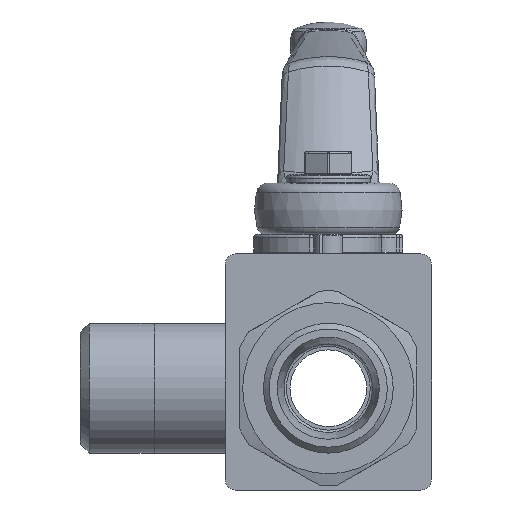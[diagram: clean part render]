
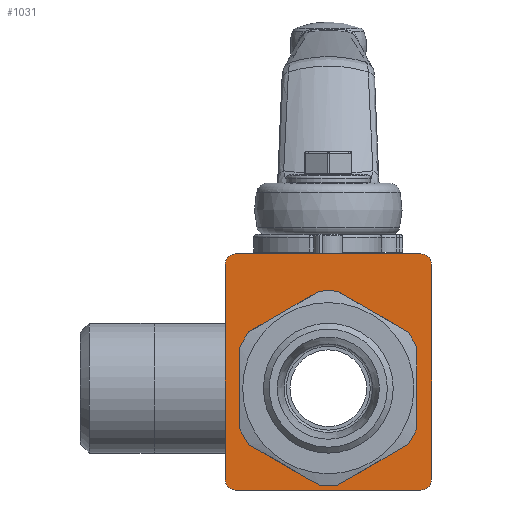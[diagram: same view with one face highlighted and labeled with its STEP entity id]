
A CAD part, front view. The second image highlights one B-rep face of the part: STEP entity #1031.
In plain terms, the highlighted planar face has unit normal (0, -1, 0).
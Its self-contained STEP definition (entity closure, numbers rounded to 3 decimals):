
#1031 = ADVANCED_FACE( '', ( #2126, #2127 ), #2128, .F. );
#2126 = FACE_BOUND( '', #3984, .T. );
#2127 = FACE_OUTER_BOUND( '', #3985, .T. );
#2128 = PLANE( '', #3986 );
#3984 = EDGE_LOOP( '', ( #6800 ) );
#3985 = EDGE_LOOP( '', ( #6801, #6802, #6803, #6804, #6805, #6806, #6807, #6808 ) );
#3986 = AXIS2_PLACEMENT_3D( '', #6809, #6810, #6811 );
#6800 = ORIENTED_EDGE( '', *, *, #8805, .F. );
#6801 = ORIENTED_EDGE( '', *, *, #8810, .T. );
#6802 = ORIENTED_EDGE( '', *, *, #8341, .T. );
#6803 = ORIENTED_EDGE( '', *, *, #8811, .T. );
#6804 = ORIENTED_EDGE( '', *, *, #8812, .T. );
#6805 = ORIENTED_EDGE( '', *, *, #8813, .T. );
#6806 = ORIENTED_EDGE( '', *, *, #8814, .T. );
#6807 = ORIENTED_EDGE( '', *, *, #8726, .T. );
#6808 = ORIENTED_EDGE( '', *, *, #8815, .T. );
#6809 = CARTESIAN_POINT( '', ( -17.5, -24.1, 22.75 ) );
#6810 = DIRECTION( '', ( 0., 1., 0. ) );
#6811 = DIRECTION( '', ( 0., 0., 1. ) );
#8341 = EDGE_CURVE( '', #9813, #9814, #9815, .F. );
#8726 = EDGE_CURVE( '', #10362, #10360, #10363, .T. );
#8805 = EDGE_CURVE( '', #10459, #10459, #10460, .T. );
#8810 = EDGE_CURVE( '', #10466, #9813, #10467, .T. );
#8811 = EDGE_CURVE( '', #9814, #10468, #10469, .T. );
#8812 = EDGE_CURVE( '', #10468, #10470, #10471, .F. );
#8813 = EDGE_CURVE( '', #10470, #10472, #10473, .T. );
#8814 = EDGE_CURVE( '', #10472, #10362, #10474, .F. );
#8815 = EDGE_CURVE( '', #10360, #10466, #10475, .F. );
#9813 = VERTEX_POINT( '', #12205 );
#9814 = VERTEX_POINT( '', #12206 );
#9815 = CIRCLE( '', #12207, 1.8 );
#10360 = VERTEX_POINT( '', #13310 );
#10362 = VERTEX_POINT( '', #13313 );
#10363 = LINE( '', #13314, #13315 );
#10459 = VERTEX_POINT( '', #13479 );
#10460 = CIRCLE( '', #13480, 15. );
#10466 = VERTEX_POINT( '', #13487 );
#10467 = LINE( '', #13488, #13489 );
#10468 = VERTEX_POINT( '', #13490 );
#10469 = LINE( '', #13491, #13492 );
#10470 = VERTEX_POINT( '', #13493 );
#10471 = CIRCLE( '', #13494, 1.8 );
#10472 = VERTEX_POINT( '', #13495 );
#10473 = LINE( '', #13496, #13497 );
#10474 = CIRCLE( '', #13498, 1.8 );
#10475 = CIRCLE( '', #13499, 1.8 );
#12205 = CARTESIAN_POINT( '', ( 15.7, -24.1, -17.25 ) );
#12206 = CARTESIAN_POINT( '', ( 17.5, -24.1, -15.45 ) );
#12207 = AXIS2_PLACEMENT_3D( '', #14624, #14625, #14626 );
#13310 = CARTESIAN_POINT( '', ( -17.5, -24.1, -15.45 ) );
#13313 = CARTESIAN_POINT( '', ( -17.5, -24.1, 20.95 ) );
#13314 = CARTESIAN_POINT( '', ( -17.5, -24.1, 22.75 ) );
#13315 = VECTOR( '', #15150, 1000. );
#13479 = CARTESIAN_POINT( '', ( 15., -24.1, 0. ) );
#13480 = AXIS2_PLACEMENT_3D( '', #15247, #15248, #15249 );
#13487 = CARTESIAN_POINT( '', ( -15.7, -24.1, -17.25 ) );
#13488 = CARTESIAN_POINT( '', ( -17.5, -24.1, -17.25 ) );
#13489 = VECTOR( '', #15254, 1000. );
#13490 = CARTESIAN_POINT( '', ( 17.5, -24.1, 20.95 ) );
#13491 = CARTESIAN_POINT( '', ( 17.5, -24.1, -17.25 ) );
#13492 = VECTOR( '', #15255, 1000. );
#13493 = CARTESIAN_POINT( '', ( 15.7, -24.1, 22.75 ) );
#13494 = AXIS2_PLACEMENT_3D( '', #15256, #15257, #15258 );
#13495 = CARTESIAN_POINT( '', ( -15.7, -24.1, 22.75 ) );
#13496 = CARTESIAN_POINT( '', ( 17.5, -24.1, 22.75 ) );
#13497 = VECTOR( '', #15259, 1000. );
#13498 = AXIS2_PLACEMENT_3D( '', #15260, #15261, #15262 );
#13499 = AXIS2_PLACEMENT_3D( '', #15263, #15264, #15265 );
#14624 = CARTESIAN_POINT( '', ( 15.7, -24.1, -15.45 ) );
#14625 = DIRECTION( '', ( 0., 1., 0. ) );
#14626 = DIRECTION( '', ( 0., 0., 1. ) );
#15150 = DIRECTION( '', ( 0., 0., -1. ) );
#15247 = CARTESIAN_POINT( '', ( 0., -24.1, 0. ) );
#15248 = DIRECTION( '', ( 0., -1., 0. ) );
#15249 = DIRECTION( '', ( 1., 0., 0. ) );
#15254 = DIRECTION( '', ( 1., 0., 0. ) );
#15255 = DIRECTION( '', ( 0., 0., 1. ) );
#15256 = CARTESIAN_POINT( '', ( 15.7, -24.1, 20.95 ) );
#15257 = DIRECTION( '', ( 0., 1., 0. ) );
#15258 = DIRECTION( '', ( 0., 0., 1. ) );
#15259 = DIRECTION( '', ( -1., 0., 0. ) );
#15260 = CARTESIAN_POINT( '', ( -15.7, -24.1, 20.95 ) );
#15261 = DIRECTION( '', ( 0., 1., 0. ) );
#15262 = DIRECTION( '', ( 0., 0., 1. ) );
#15263 = CARTESIAN_POINT( '', ( -15.7, -24.1, -15.45 ) );
#15264 = DIRECTION( '', ( 0., 1., 0. ) );
#15265 = DIRECTION( '', ( 0., 0., 1. ) );
